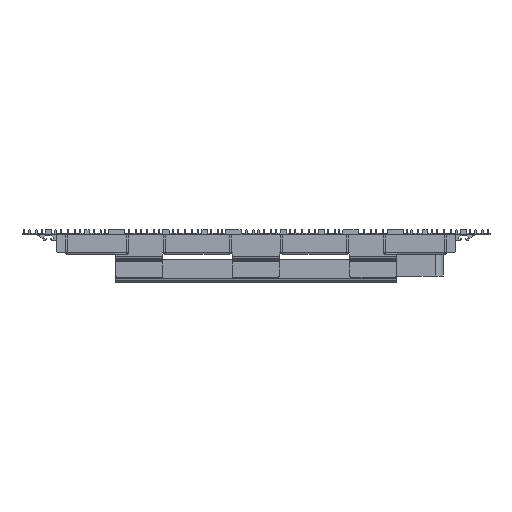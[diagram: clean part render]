
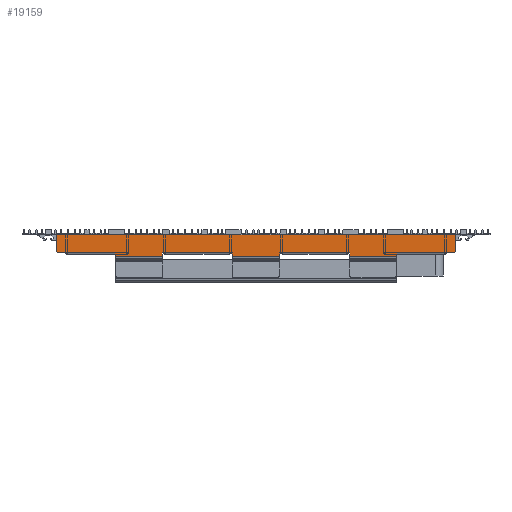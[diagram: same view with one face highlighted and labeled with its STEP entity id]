
A CAD part, front view. The second image highlights one B-rep face of the part: STEP entity #19159.
In plain terms, the highlighted planar face has unit normal (0, -1, 0).
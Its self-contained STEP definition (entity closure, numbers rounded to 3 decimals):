
#1093=DIRECTION('',(-1.,0.,0.));
#1094=VECTOR('',#1093,105.5);
#1095=CARTESIAN_POINT('',(-151.5,-883.,0.));
#1096=LINE('',#1095,#1094);
#1888=DIRECTION('',(-1.,0.,0.));
#1889=VECTOR('',#1888,105.5);
#1890=CARTESIAN_POINT('',(257.,-883.,0.));
#1891=LINE('',#1890,#1889);
#2223=DIRECTION('',(0.,0.,-1.));
#2224=VECTOR('',#2223,20.3);
#2225=CARTESIAN_POINT('',(257.,-883.,0.));
#2226=LINE('',#2225,#2224);
#2344=CARTESIAN_POINT('',(-254.,-883.,-20.3));
#2345=DIRECTION('',(0.,-1.,0.));
#2346=DIRECTION('',(-1.,0.,0.));
#2347=AXIS2_PLACEMENT_3D('',#2344,#2345,#2346);
#2352=DIRECTION('',(-1.,0.,0.));
#2353=VECTOR('',#2352,1.75);
#2354=CARTESIAN_POINT('',(-149.75,-883.,0.));
#2355=LINE('',#2354,#2353);
#2359=DIRECTION('',(-1.,0.,0.));
#2360=VECTOR('',#2359,2.5);
#2361=CARTESIAN_POINT('',(1.25,-883.,0.));
#2362=LINE('',#2361,#2360);
#2366=DIRECTION('',(-1.,0.,0.));
#2367=VECTOR('',#2366,1.75);
#2368=CARTESIAN_POINT('',(151.5,-883.,0.));
#2369=LINE('',#2368,#2367);
#2373=CARTESIAN_POINT('',(254.,-883.,-20.3));
#2374=DIRECTION('',(0.,-1.,0.));
#2375=DIRECTION('',(0.,0.,-1.));
#2376=AXIS2_PLACEMENT_3D('',#2373,#2374,#2375);
#2381=DIRECTION('',(-1.,0.,0.));
#2382=VECTOR('',#2381,72.5);
#2383=CARTESIAN_POINT('',(254.,-883.,-23.3));
#2384=LINE('',#2383,#2382);
#2388=DIRECTION('',(0.,0.,1.));
#2389=VECTOR('',#2388,4.5);
#2390=CARTESIAN_POINT('',(181.5,-883.,-27.8));
#2391=LINE('',#2390,#2389);
#2395=DIRECTION('',(0.,0.,1.));
#2396=VECTOR('',#2395,4.5);
#2397=CARTESIAN_POINT('',(120.5,-883.,-27.8));
#2398=LINE('',#2397,#2396);
#2402=DIRECTION('',(1.,0.,0.));
#2403=VECTOR('',#2402,90.);
#2404=CARTESIAN_POINT('',(30.5,-883.,-23.3));
#2405=LINE('',#2404,#2403);
#2409=DIRECTION('',(0.,0.,1.));
#2410=VECTOR('',#2409,4.5);
#2411=CARTESIAN_POINT('',(30.5,-883.,-27.8));
#2412=LINE('',#2411,#2410);
#2416=DIRECTION('',(0.,0.,1.));
#2417=VECTOR('',#2416,4.5);
#2418=CARTESIAN_POINT('',(-30.5,-883.,-27.8));
#2419=LINE('',#2418,#2417);
#2423=DIRECTION('',(1.,0.,0.));
#2424=VECTOR('',#2423,90.);
#2425=CARTESIAN_POINT('',(-120.5,-883.,-23.3));
#2426=LINE('',#2425,#2424);
#2430=DIRECTION('',(0.,0.,1.));
#2431=VECTOR('',#2430,4.5);
#2432=CARTESIAN_POINT('',(-120.5,-883.,-27.8));
#2433=LINE('',#2432,#2431);
#2437=DIRECTION('',(0.,0.,1.));
#2438=VECTOR('',#2437,4.5);
#2439=CARTESIAN_POINT('',(-181.5,-883.,-27.8));
#2440=LINE('',#2439,#2438);
#2444=DIRECTION('',(1.,0.,0.));
#2445=VECTOR('',#2444,72.5);
#2446=CARTESIAN_POINT('',(-254.,-883.,-23.3));
#2447=LINE('',#2446,#2445);
#2486=DIRECTION('',(0.,0.,-1.));
#2487=VECTOR('',#2486,20.3);
#2488=CARTESIAN_POINT('',(-257.,-883.,0.));
#2489=LINE('',#2488,#2487);
#3827=DIRECTION('',(-1.,0.,0.));
#3828=VECTOR('',#3827,61.);
#3829=CARTESIAN_POINT('',(181.5,-883.,-27.8));
#3830=LINE('',#3829,#3828);
#3850=DIRECTION('',(-1.,0.,0.));
#3851=VECTOR('',#3850,61.);
#3852=CARTESIAN_POINT('',(30.5,-883.,-27.8));
#3853=LINE('',#3852,#3851);
#3865=DIRECTION('',(-1.,0.,0.));
#3866=VECTOR('',#3865,61.);
#3867=CARTESIAN_POINT('',(-120.5,-883.,-27.8));
#3868=LINE('',#3867,#3866);
#4125=DIRECTION('',(-1.,0.,0.));
#4126=VECTOR('',#4125,148.5);
#4127=CARTESIAN_POINT('',(149.75,-883.,0.));
#4128=LINE('',#4127,#4126);
#4314=DIRECTION('',(-1.,0.,0.));
#4315=VECTOR('',#4314,148.5);
#4316=CARTESIAN_POINT('',(-1.25,-883.,0.));
#4317=LINE('',#4316,#4315);
#16277=CARTESIAN_POINT('',(1.25,-883.,0.));
#16278=VERTEX_POINT('',#16277);
#16281=CARTESIAN_POINT('',(151.5,-883.,0.));
#16282=VERTEX_POINT('',#16281);
#16301=CARTESIAN_POINT('',(149.75,-883.,0.));
#16302=VERTEX_POINT('',#16301);
#16303=CARTESIAN_POINT('',(-1.25,-883.,0.));
#16304=VERTEX_POINT('',#16303);
#16305=CARTESIAN_POINT('',(-149.75,-883.,0.));
#16306=CARTESIAN_POINT('',(-151.5,-883.,0.));
#16307=VERTEX_POINT('',#16305);
#16308=VERTEX_POINT('',#16306);
#16397=CARTESIAN_POINT('',(181.5,-883.,-27.8));
#16398=CARTESIAN_POINT('',(181.5,-883.,-23.3));
#16399=VERTEX_POINT('',#16397);
#16400=VERTEX_POINT('',#16398);
#16401=CARTESIAN_POINT('',(30.5,-883.,-27.8));
#16402=CARTESIAN_POINT('',(30.5,-883.,-23.3));
#16403=VERTEX_POINT('',#16401);
#16404=VERTEX_POINT('',#16402);
#16405=CARTESIAN_POINT('',(120.5,-883.,-23.3));
#16406=VERTEX_POINT('',#16405);
#16407=CARTESIAN_POINT('',(120.5,-883.,-27.8));
#16408=VERTEX_POINT('',#16407);
#16409=CARTESIAN_POINT('',(-181.5,-883.,-27.8));
#16410=CARTESIAN_POINT('',(-181.5,-883.,-23.3));
#16411=VERTEX_POINT('',#16409);
#16412=VERTEX_POINT('',#16410);
#16509=CARTESIAN_POINT('',(-30.5,-883.,-27.8));
#16510=VERTEX_POINT('',#16509);
#16589=CARTESIAN_POINT('',(-257.,-883.,-20.3));
#16590=CARTESIAN_POINT('',(-254.,-883.,-23.3));
#16591=VERTEX_POINT('',#16589);
#16592=VERTEX_POINT('',#16590);
#16633=CARTESIAN_POINT('',(254.,-883.,-23.3));
#16634=VERTEX_POINT('',#16633);
#16635=CARTESIAN_POINT('',(257.,-883.,-20.3));
#16636=VERTEX_POINT('',#16635);
#16641=CARTESIAN_POINT('',(257.,-883.,0.));
#16642=VERTEX_POINT('',#16641);
#16645=CARTESIAN_POINT('',(-257.,-883.,0.));
#16646=VERTEX_POINT('',#16645);
#17964=CARTESIAN_POINT('',(-120.5,-883.,-27.8));
#17965=CARTESIAN_POINT('',(-120.5,-883.,-23.3));
#17966=VERTEX_POINT('',#17964);
#17967=VERTEX_POINT('',#17965);
#17968=CARTESIAN_POINT('',(-30.5,-883.,-23.3));
#17969=VERTEX_POINT('',#17968);
#19109=CARTESIAN_POINT('',(257.,-883.,0.));
#19110=DIRECTION('',(0.,-1.,0.));
#19111=DIRECTION('',(0.,0.,-1.));
#19112=AXIS2_PLACEMENT_3D('',#19109,#19110,#19111);
#19113=PLANE('',#19112);
#19114=ORIENTED_EDGE('',*,*,#19099,.F.);
#19116=ORIENTED_EDGE('',*,*,#19115,.F.);
#19117=ORIENTED_EDGE('',*,*,#18347,.F.);
#19119=ORIENTED_EDGE('',*,*,#19118,.F.);
#19121=ORIENTED_EDGE('',*,*,#19120,.F.);
#19123=ORIENTED_EDGE('',*,*,#19122,.F.);
#19125=ORIENTED_EDGE('',*,*,#19124,.F.);
#19127=ORIENTED_EDGE('',*,*,#19126,.F.);
#19128=ORIENTED_EDGE('',*,*,#18853,.F.);
#19129=ORIENTED_EDGE('',*,*,#19019,.T.);
#19130=ORIENTED_EDGE('',*,*,#19036,.F.);
#19132=ORIENTED_EDGE('',*,*,#19131,.T.);
#19134=ORIENTED_EDGE('',*,*,#19133,.F.);
#19136=ORIENTED_EDGE('',*,*,#19135,.T.);
#19138=ORIENTED_EDGE('',*,*,#19137,.T.);
#19140=ORIENTED_EDGE('',*,*,#19139,.F.);
#19142=ORIENTED_EDGE('',*,*,#19141,.F.);
#19144=ORIENTED_EDGE('',*,*,#19143,.T.);
#19146=ORIENTED_EDGE('',*,*,#19145,.T.);
#19148=ORIENTED_EDGE('',*,*,#19147,.F.);
#19150=ORIENTED_EDGE('',*,*,#19149,.F.);
#19152=ORIENTED_EDGE('',*,*,#19151,.T.);
#19154=ORIENTED_EDGE('',*,*,#19153,.T.);
#19156=ORIENTED_EDGE('',*,*,#19155,.F.);
#19157=EDGE_LOOP('',(#19114,#19116,#19117,#19119,#19121,#19123,#19125,#19127,
#19128,#19129,#19130,#19132,#19134,#19136,#19138,#19140,#19142,#19144,#19146,
#19148,#19150,#19152,#19154,#19156));
#19158=FACE_OUTER_BOUND('',#19157,.F.);
#2348=CIRCLE('',#2347,3.);
#2377=CIRCLE('',#2376,3.);
#18347=EDGE_CURVE('',#16308,#16646,#1096,.T.);
#18853=EDGE_CURVE('',#16642,#16282,#1891,.T.);
#19019=EDGE_CURVE('',#16642,#16636,#2226,.T.);
#19036=EDGE_CURVE('',#16634,#16636,#2377,.T.);
#19099=EDGE_CURVE('',#16591,#16592,#2348,.T.);
#19115=EDGE_CURVE('',#16646,#16591,#2489,.T.);
#19118=EDGE_CURVE('',#16307,#16308,#2355,.T.);
#19120=EDGE_CURVE('',#16304,#16307,#4317,.T.);
#19122=EDGE_CURVE('',#16278,#16304,#2362,.T.);
#19124=EDGE_CURVE('',#16302,#16278,#4128,.T.);
#19126=EDGE_CURVE('',#16282,#16302,#2369,.T.);
#19131=EDGE_CURVE('',#16634,#16400,#2384,.T.);
#19133=EDGE_CURVE('',#16399,#16400,#2391,.T.);
#19135=EDGE_CURVE('',#16399,#16408,#3830,.T.);
#19137=EDGE_CURVE('',#16408,#16406,#2398,.T.);
#19139=EDGE_CURVE('',#16404,#16406,#2405,.T.);
#19141=EDGE_CURVE('',#16403,#16404,#2412,.T.);
#19143=EDGE_CURVE('',#16403,#16510,#3853,.T.);
#19145=EDGE_CURVE('',#16510,#17969,#2419,.T.);
#19147=EDGE_CURVE('',#17967,#17969,#2426,.T.);
#19149=EDGE_CURVE('',#17966,#17967,#2433,.T.);
#19151=EDGE_CURVE('',#17966,#16411,#3868,.T.);
#19153=EDGE_CURVE('',#16411,#16412,#2440,.T.);
#19155=EDGE_CURVE('',#16592,#16412,#2447,.T.);
#19159=ADVANCED_FACE('',(#19158),#19113,.T.);
